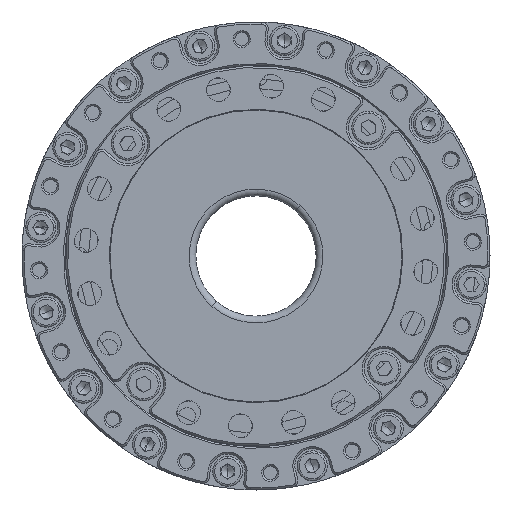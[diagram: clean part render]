
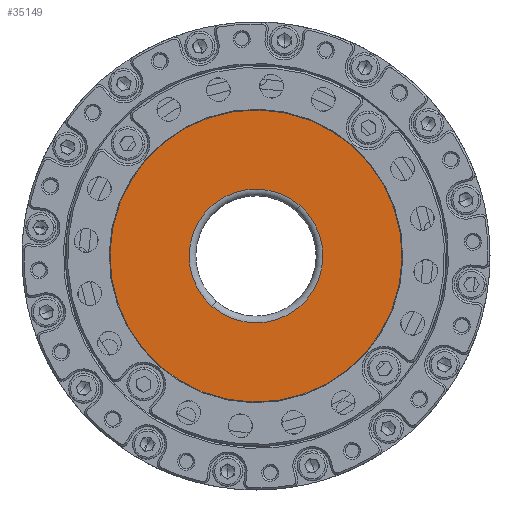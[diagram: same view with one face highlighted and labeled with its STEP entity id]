
A CAD part, front view. The second image highlights one B-rep face of the part: STEP entity #35149.
In plain terms, the highlighted planar face has unit normal (0, -1, 0).
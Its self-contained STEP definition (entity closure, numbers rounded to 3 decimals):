
#1455 = VERTEX_POINT ( 'NONE', #40123 ) ;
#1850 = ORIENTED_EDGE ( 'NONE', *, *, #17839, .T. ) ;
#7154 = DIRECTION ( 'NONE',  ( 0., 1., 0. ) ) ;
#8109 = ORIENTED_EDGE ( 'NONE', *, *, #14650, .T. ) ;
#8582 = CARTESIAN_POINT ( 'NONE',  ( -1.816, -29.909, 2.069 ) ) ;
#10044 = DIRECTION ( 'NONE',  ( 0., -1., 0. ) ) ;
#10235 = CIRCLE ( 'NONE', #28002, 10. ) ;
#11025 = PLANE ( 'NONE',  #15408 ) ;
#11272 = DIRECTION ( 'NONE',  ( -0.659, 0., -0.752 ) ) ;
#13694 = CARTESIAN_POINT ( 'NONE',  ( -8.409, -29.909, -5.449 ) ) ;
#13966 = CIRCLE ( 'NONE', #24643, 21.85 ) ;
#14096 = CIRCLE ( 'NONE', #30461, 21.85 ) ;
#14650 = EDGE_CURVE ( 'NONE', #23836, #1455, #14096, .T. ) ;
#14711 = CARTESIAN_POINT ( 'NONE',  ( -1.816, -29.909, 2.069 ) ) ;
#14841 = DIRECTION ( 'NONE',  ( 0., 1., 0. ) ) ;
#15053 = EDGE_LOOP ( 'NONE', ( #32743, #8109 ) ) ;
#15408 = AXIS2_PLACEMENT_3D ( 'NONE', #17497, #27078, #17725 ) ;
#17497 = CARTESIAN_POINT ( 'NONE',  ( -1.816, -29.909, 2.069 ) ) ;
#17725 = DIRECTION ( 'NONE',  ( -0.659, 0., -0.752 ) ) ;
#17839 = EDGE_CURVE ( 'NONE', #39886, #30554, #10235, .T. ) ;
#22259 = ORIENTED_EDGE ( 'NONE', *, *, #35453, .T. ) ;
#22534 = CARTESIAN_POINT ( 'NONE',  ( -1.816, -29.909, 2.069 ) ) ;
#23836 = VERTEX_POINT ( 'NONE', #38837 ) ;
#23850 = DIRECTION ( 'NONE',  ( -0.659, 0., -0.752 ) ) ;
#24190 = FACE_OUTER_BOUND ( 'NONE', #15053, .T. ) ;
#24643 = AXIS2_PLACEMENT_3D ( 'NONE', #33436, #10044, #23850 ) ;
#26076 = CIRCLE ( 'NONE', #30375, 10. ) ;
#27078 = DIRECTION ( 'NONE',  ( 0., -1., 0. ) ) ;
#28002 = AXIS2_PLACEMENT_3D ( 'NONE', #8582, #14841, #11272 ) ;
#30375 = AXIS2_PLACEMENT_3D ( 'NONE', #14711, #7154, #41858 ) ;
#30461 = AXIS2_PLACEMENT_3D ( 'NONE', #22534, #36541, #35883 ) ;
#30554 = VERTEX_POINT ( 'NONE', #32477 ) ;
#30855 = FACE_BOUND ( 'NONE', #43159, .T. ) ;
#32477 = CARTESIAN_POINT ( 'NONE',  ( 4.778, -29.909, 9.587 ) ) ;
#32743 = ORIENTED_EDGE ( 'NONE', *, *, #35431, .T. ) ;
#33436 = CARTESIAN_POINT ( 'NONE',  ( -1.816, -29.909, 2.069 ) ) ;
#35149 = ADVANCED_FACE ( 'NONE', ( #30855, #24190 ), #11025, .T. ) ;
#35431 = EDGE_CURVE ( 'NONE', #1455, #23836, #13966, .T. ) ;
#35453 = EDGE_CURVE ( 'NONE', #30554, #39886, #26076, .T. ) ;
#35883 = DIRECTION ( 'NONE',  ( -0.659, 0., -0.752 ) ) ;
#36541 = DIRECTION ( 'NONE',  ( 0., -1., 0. ) ) ;
#38837 = CARTESIAN_POINT ( 'NONE',  ( 12.592, -29.909, 18.496 ) ) ;
#39886 = VERTEX_POINT ( 'NONE', #13694 ) ;
#40123 = CARTESIAN_POINT ( 'NONE',  ( -16.223, -29.909, -14.358 ) ) ;
#41858 = DIRECTION ( 'NONE',  ( -0.659, 0., -0.752 ) ) ;
#43159 = EDGE_LOOP ( 'NONE', ( #1850, #22259 ) ) ;
